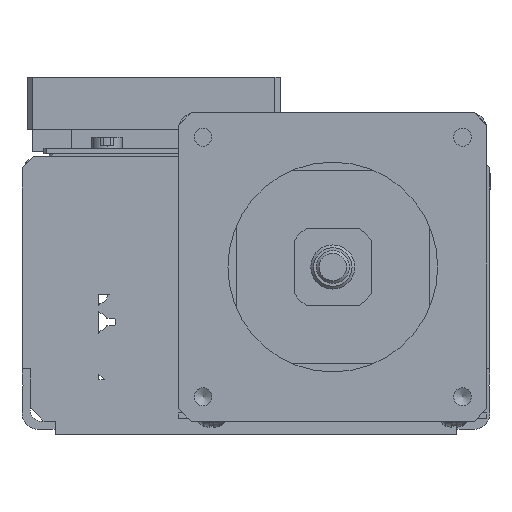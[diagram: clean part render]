
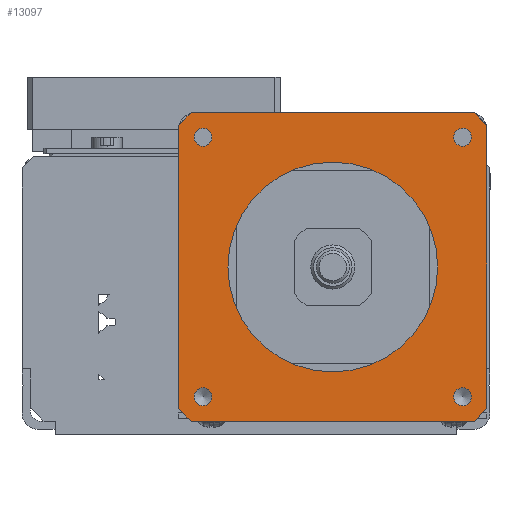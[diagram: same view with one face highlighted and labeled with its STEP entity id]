
A CAD part, left-side view. The second image highlights one B-rep face of the part: STEP entity #13097.
In plain terms, the highlighted planar face has unit normal (-1, 0, 0).
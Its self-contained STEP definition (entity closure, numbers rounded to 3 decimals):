
#11837=CARTESIAN_POINT('',(-56.,-35.899,6.93));
#11838=VERTEX_POINT('',#11837);
#11839=CARTESIAN_POINT('',(-56.,-37.52,6.93));
#11840=DIRECTION('',(1.0,0.0,0.0));
#11841=DIRECTION('',(0.0,1.0,0.0));
#11842=AXIS2_PLACEMENT_3D('',#11839,#11840,#11841);
#11843=CIRCLE('',#11842,1.621);
#11844=EDGE_CURVE('',#11838,#11838,#11843,.T.);
#11874=CARTESIAN_POINT('',(-56.,11.241,6.93));
#11875=VERTEX_POINT('',#11874);
#11876=CARTESIAN_POINT('',(-56.,9.62,6.93));
#11877=DIRECTION('',(1.0,0.0,0.0));
#11878=DIRECTION('',(0.0,1.0,0.0));
#11879=AXIS2_PLACEMENT_3D('',#11876,#11877,#11878);
#11880=CIRCLE('',#11879,1.621);
#11881=EDGE_CURVE('',#11875,#11875,#11880,.T.);
#11894=CARTESIAN_POINT('',(-56.,11.241,54.07));
#11895=VERTEX_POINT('',#11894);
#11896=CARTESIAN_POINT('',(-56.,9.62,54.07));
#11897=DIRECTION('',(1.0,0.0,0.0));
#11898=DIRECTION('',(0.0,1.0,0.0));
#11899=AXIS2_PLACEMENT_3D('',#11896,#11897,#11898);
#11900=CIRCLE('',#11899,1.621);
#11901=EDGE_CURVE('',#11895,#11895,#11900,.T.);
#11914=CARTESIAN_POINT('',(-56.,-35.899,54.07));
#11915=VERTEX_POINT('',#11914);
#11916=CARTESIAN_POINT('',(-56.,-37.52,54.07));
#11917=DIRECTION('',(1.0,0.0,0.0));
#11918=DIRECTION('',(0.0,1.0,0.0));
#11919=AXIS2_PLACEMENT_3D('',#11916,#11917,#11918);
#11920=CIRCLE('',#11919,1.621);
#11921=EDGE_CURVE('',#11915,#11915,#11920,.T.);
#12560=CARTESIAN_POINT('',(-56.,14.05,56.19));
#12561=VERTEX_POINT('',#12560);
#12568=CARTESIAN_POINT('',(-56.,11.74,58.5));
#12569=VERTEX_POINT('',#12568);
#12570=CARTESIAN_POINT('',(-56.,-13.95,30.5));
#12571=DIRECTION('',(1.0,0.0,0.0));
#12572=DIRECTION('',(0.0,1.0,0.0));
#12573=AXIS2_PLACEMENT_3D('',#12570,#12571,#12572);
#12574=CIRCLE('',#12573,38.0);
#12575=EDGE_CURVE('',#12561,#12569,#12574,.T.);
#12609=CARTESIAN_POINT('',(-56.,-41.95,56.19));
#12610=VERTEX_POINT('',#12609);
#12617=CARTESIAN_POINT('',(-56.,-41.95,4.81));
#12618=VERTEX_POINT('',#12617);
#12619=CARTESIAN_POINT('',(-56.,-41.95,56.19));
#12620=DIRECTION('',(0.0,0.0,-1.0));
#12621=VECTOR('',#12620,51.381);
#12622=LINE('',#12619,#12621);
#12623=EDGE_CURVE('',#12610,#12618,#12622,.T.);
#12704=CARTESIAN_POINT('',(-56.,-39.64,58.5));
#12705=VERTEX_POINT('',#12704);
#12712=CARTESIAN_POINT('',(-56.,-13.95,30.5));
#12713=DIRECTION('',(1.0,0.0,0.0));
#12714=DIRECTION('',(0.0,1.0,0.0));
#12715=AXIS2_PLACEMENT_3D('',#12712,#12713,#12714);
#12716=CIRCLE('',#12715,38.0);
#12717=EDGE_CURVE('',#12705,#12610,#12716,.T.);
#12762=CARTESIAN_POINT('',(-56.,-39.64,2.5));
#12763=VERTEX_POINT('',#12762);
#12770=CARTESIAN_POINT('',(-56.,11.74,2.5));
#12771=VERTEX_POINT('',#12770);
#12772=CARTESIAN_POINT('',(-56.,-39.64,2.5));
#12773=DIRECTION('',(0.0,1.0,0.0));
#12774=VECTOR('',#12773,51.381);
#12775=LINE('',#12772,#12774);
#12776=EDGE_CURVE('',#12763,#12771,#12775,.T.);
#12798=CARTESIAN_POINT('',(-56.,14.05,4.81));
#12799=VERTEX_POINT('',#12798);
#12800=CARTESIAN_POINT('',(-56.,-13.95,30.5));
#12801=DIRECTION('',(1.0,0.0,0.0));
#12802=DIRECTION('',(0.0,1.0,0.0));
#12803=AXIS2_PLACEMENT_3D('',#12800,#12801,#12802);
#12804=CIRCLE('',#12803,38.0);
#12805=EDGE_CURVE('',#12771,#12799,#12804,.T.);
#12868=CARTESIAN_POINT('',(-56.,-13.95,49.55));
#12869=VERTEX_POINT('',#12868);
#12870=CARTESIAN_POINT('',(-56.,-13.95,30.5));
#12871=DIRECTION('',(1.0,0.0,0.0));
#12872=DIRECTION('',(0.0,0.0,1.0));
#12873=AXIS2_PLACEMENT_3D('',#12870,#12871,#12872);
#12874=CIRCLE('',#12873,19.05);
#12875=EDGE_CURVE('',#12869,#12869,#12874,.T.);
#12905=CARTESIAN_POINT('',(-56.,11.74,58.5));
#12906=DIRECTION('',(0.0,-1.0,0.0));
#12907=VECTOR('',#12906,51.381);
#12908=LINE('',#12905,#12907);
#12909=EDGE_CURVE('',#12569,#12705,#12908,.T.);
#13000=CARTESIAN_POINT('',(-56.,14.05,4.81));
#13001=DIRECTION('',(0.0,0.0,1.0));
#13002=VECTOR('',#13001,51.381);
#13003=LINE('',#13000,#13002);
#13004=EDGE_CURVE('',#12799,#12561,#13003,.T.);
#13053=CARTESIAN_POINT('',(-56.,-13.95,30.5));
#13054=DIRECTION('',(1.0,0.0,0.0));
#13055=DIRECTION('',(0.0,1.0,0.0));
#13056=AXIS2_PLACEMENT_3D('',#13053,#13054,#13055);
#13057=CIRCLE('',#13056,38.0);
#13058=EDGE_CURVE('',#12618,#12763,#13057,.T.);
#13067=CARTESIAN_POINT('',(-56.,-13.95,30.5));
#13068=DIRECTION('',(1.0,0.0,0.0));
#13069=DIRECTION('',(0.0,0.0,-1.0));
#13070=AXIS2_PLACEMENT_3D('',#13067,#13068,#13069);
#13071=PLANE('',#13070);
#13072=ORIENTED_EDGE('',*,*,#12623,.F.);
#13073=ORIENTED_EDGE('',*,*,#12717,.F.);
#13074=ORIENTED_EDGE('',*,*,#12909,.F.);
#13075=ORIENTED_EDGE('',*,*,#12575,.F.);
#13076=ORIENTED_EDGE('',*,*,#13004,.F.);
#13077=ORIENTED_EDGE('',*,*,#12805,.F.);
#13078=ORIENTED_EDGE('',*,*,#12776,.F.);
#13079=ORIENTED_EDGE('',*,*,#13058,.F.);
#13080=EDGE_LOOP('',(#13072,#13073,#13074,#13075,#13076,#13077,#13078,#13079));
#13081=FACE_OUTER_BOUND('',#13080,.T.);
#13082=ORIENTED_EDGE('',*,*,#11844,.T.);
#13083=EDGE_LOOP('',(#13082));
#13084=FACE_BOUND('',#13083,.T.);
#13085=ORIENTED_EDGE('',*,*,#11881,.T.);
#13086=EDGE_LOOP('',(#13085));
#13087=FACE_BOUND('',#13086,.T.);
#13088=ORIENTED_EDGE('',*,*,#11901,.T.);
#13089=EDGE_LOOP('',(#13088));
#13090=FACE_BOUND('',#13089,.T.);
#13091=ORIENTED_EDGE('',*,*,#11921,.T.);
#13092=EDGE_LOOP('',(#13091));
#13093=FACE_BOUND('',#13092,.T.);
#13094=ORIENTED_EDGE('',*,*,#12875,.T.);
#13095=EDGE_LOOP('',(#13094));
#13096=FACE_BOUND('',#13095,.T.);
#13097=ADVANCED_FACE('',(#13081,#13084,#13087,#13090,#13093,#13096),#13071,.F.);
